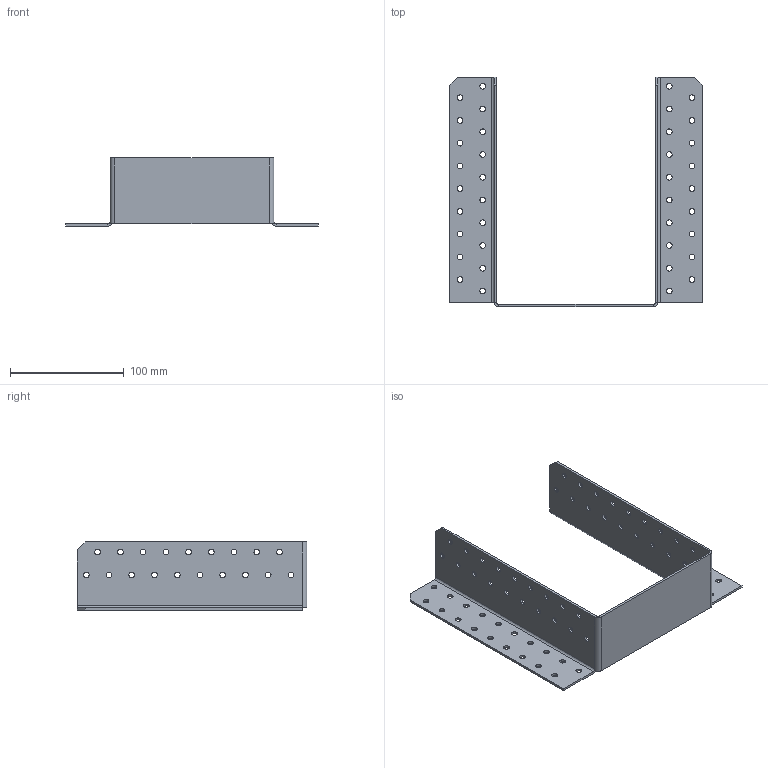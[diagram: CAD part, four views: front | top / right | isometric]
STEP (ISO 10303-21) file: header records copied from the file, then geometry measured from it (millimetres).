
FILE_DESCRIPTION (( 'STEP AP203' ), '1' );
FILE_NAME ('405132.STEP', '2021-04-17T16:42:37', ( '' ), ( '' ), 'SwSTEP 2.0', 'SolidWorks 2013', '' );
FILE_SCHEMA (( 'CONFIG_CONTROL_DESIGN' ));
Length unit declared in the file: millimetre
Products named in the file (1): 405132
Bounding box: 222 x 202 x 60 mm (x, y, z)
Volume: 91077 mm3; surface area: 96148.6 mm2
Topology: 1 solids, 1 shells, 196 faces, 552 edges, 358 vertices
Faces by surface type: cylinder 160, plane 36
Entity records: 6859 total; most frequent: DIRECTION 1268, CARTESIAN_POINT 1107, ORIENTED_EDGE 1104, EDGE_CURVE 552, AXIS2_PLACEMENT_3D 519, VERTEX_POINT 358, EDGE_LOOP 348, CIRCLE 322
